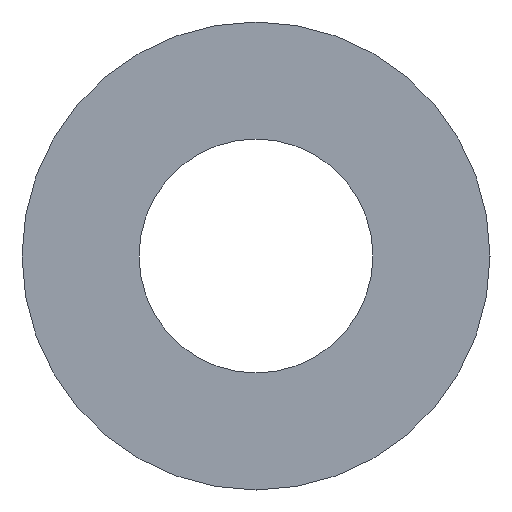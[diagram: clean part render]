
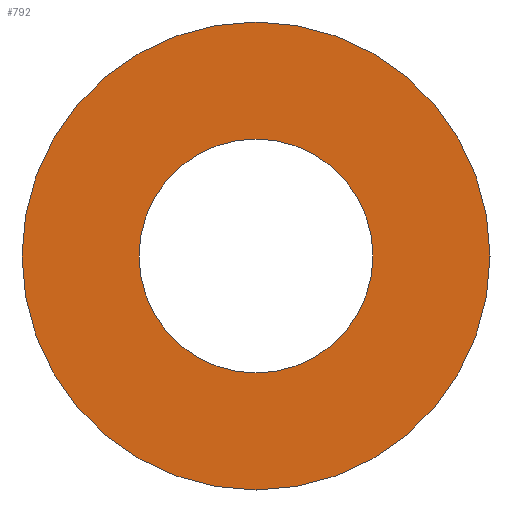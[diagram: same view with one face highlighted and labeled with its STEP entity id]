
A CAD part, front view. The second image highlights one B-rep face of the part: STEP entity #792.
In plain terms, the highlighted planar face has unit normal (0, -1, 0).
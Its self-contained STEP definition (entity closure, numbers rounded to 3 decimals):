
#284 = CARTESIAN_POINT ( 'NONE',  ( 0., -15.5, 0. ) ) ;
#333 = CIRCLE ( 'NONE', #2265, 12.5 ) ;
#374 = CARTESIAN_POINT ( 'NONE',  ( 0., -15.5, 0. ) ) ;
#435 = EDGE_CURVE ( 'NONE', #2982, #2038, #2656, .T. ) ;
#629 = DIRECTION ( 'NONE',  ( 0., 0., 1. ) ) ;
#632 = DIRECTION ( 'NONE',  ( 0., 0., -1. ) ) ;
#792 = ADVANCED_FACE ( 'NONE', ( #1897, #1355 ), #1117, .F. ) ;
#823 = ORIENTED_EDGE ( 'NONE', *, *, #3014, .T. ) ;
#910 = DIRECTION ( 'NONE',  ( 0., 0., -1. ) ) ;
#989 = ORIENTED_EDGE ( 'NONE', *, *, #2949, .F. ) ;
#1002 = CIRCLE ( 'NONE', #2436, 25. ) ;
#1020 = VERTEX_POINT ( 'NONE', #1241 ) ;
#1117 = PLANE ( 'NONE',  #1190 ) ;
#1190 = AXIS2_PLACEMENT_3D ( 'NONE', #1860, #2607, #629 ) ;
#1201 = EDGE_CURVE ( 'NONE', #2971, #1020, #2863, .T. ) ;
#1241 = CARTESIAN_POINT ( 'NONE',  ( 0., -15.5, 25. ) ) ;
#1355 = FACE_OUTER_BOUND ( 'NONE', #1381, .T. ) ;
#1381 = EDGE_LOOP ( 'NONE', ( #2285, #823 ) ) ;
#1419 = CARTESIAN_POINT ( 'NONE',  ( 0., -15.5, 0. ) ) ;
#1628 = CARTESIAN_POINT ( 'NONE',  ( 0., -15.5, -12.5 ) ) ;
#1860 = CARTESIAN_POINT ( 'NONE',  ( 0., -15.5, 12.5 ) ) ;
#1885 = AXIS2_PLACEMENT_3D ( 'NONE', #1419, #2400, #2141 ) ;
#1897 = FACE_BOUND ( 'NONE', #2723, .T. ) ;
#2038 = VERTEX_POINT ( 'NONE', #1628 ) ;
#2107 = DIRECTION ( 'NONE',  ( 0., -1., 0. ) ) ;
#2141 = DIRECTION ( 'NONE',  ( 0., 0., -1. ) ) ;
#2169 = CARTESIAN_POINT ( 'NONE',  ( 0., -15.5, 0. ) ) ;
#2176 = ORIENTED_EDGE ( 'NONE', *, *, #435, .F. ) ;
#2192 = CARTESIAN_POINT ( 'NONE',  ( 0., -15.5, -25. ) ) ;
#2265 = AXIS2_PLACEMENT_3D ( 'NONE', #374, #2107, #632 ) ;
#2285 = ORIENTED_EDGE ( 'NONE', *, *, #1201, .T. ) ;
#2400 = DIRECTION ( 'NONE',  ( 0., -1., 0. ) ) ;
#2414 = AXIS2_PLACEMENT_3D ( 'NONE', #284, #2542, #2517 ) ;
#2436 = AXIS2_PLACEMENT_3D ( 'NONE', #2169, #2909, #910 ) ;
#2517 = DIRECTION ( 'NONE',  ( 0., 0., -1. ) ) ;
#2542 = DIRECTION ( 'NONE',  ( 0., -1., 0. ) ) ;
#2607 = DIRECTION ( 'NONE',  ( 0., 1., 0. ) ) ;
#2656 = CIRCLE ( 'NONE', #1885, 12.5 ) ;
#2723 = EDGE_LOOP ( 'NONE', ( #989, #2176 ) ) ;
#2863 = CIRCLE ( 'NONE', #2414, 25. ) ;
#2909 = DIRECTION ( 'NONE',  ( 0., -1., 0. ) ) ;
#2916 = CARTESIAN_POINT ( 'NONE',  ( 0., -15.5, 12.5 ) ) ;
#2949 = EDGE_CURVE ( 'NONE', #2038, #2982, #333, .T. ) ;
#2971 = VERTEX_POINT ( 'NONE', #2192 ) ;
#2982 = VERTEX_POINT ( 'NONE', #2916 ) ;
#3014 = EDGE_CURVE ( 'NONE', #1020, #2971, #1002, .T. ) ;
